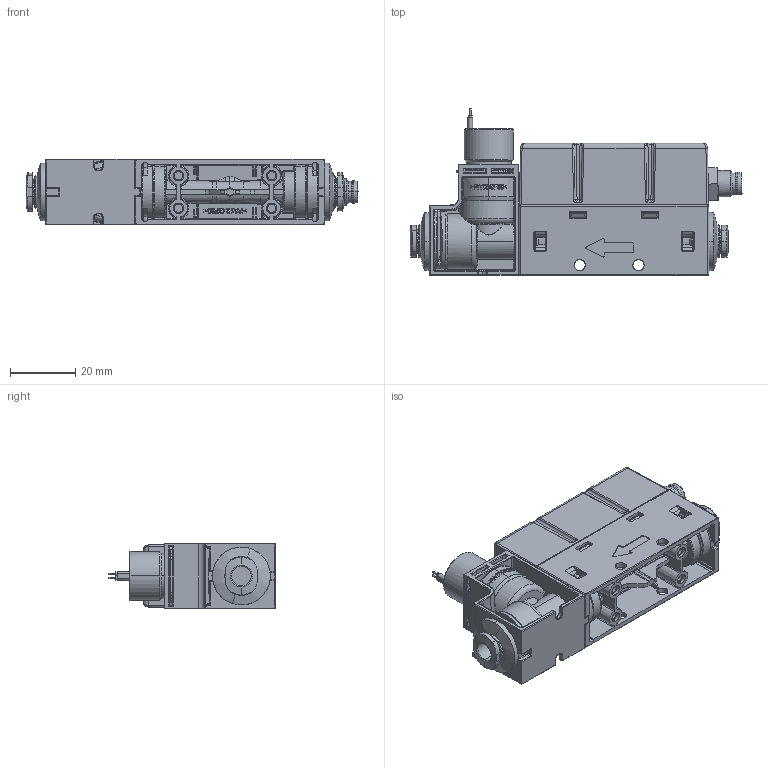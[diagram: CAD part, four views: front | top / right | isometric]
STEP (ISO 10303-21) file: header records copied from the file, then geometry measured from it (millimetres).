
FILE_DESCRIPTION (( 'STEP AP214' ), '1' );
FILE_NAME ('163285-00_Public model SFC6000.step', '2023-01-12T11:38:13', ( '' ), ( '' ), 'SwSTEP 2.0', 'SolidWorks 2021', '' );
FILE_SCHEMA (( 'AUTOMOTIVE_DESIGN' ));
Length unit declared in the file: millimetre
Products named in the file (1): 163285-00_Public model SFC6000
Bounding box: 101.63 x 50.83 x 20 mm (x, y, z)
Volume: 53826.1 mm3; surface area: 20272.7 mm2
Topology: 1 solids, 2 shells, 2247 faces, 5619 edges, 3371 vertices
Faces by surface type: bspline 885, cylinder 705, plane 528, cone 127, torus 2
Entity records: 121799 total; most frequent: CARTESIAN_POINT 51814, ORIENTED_EDGE 11122, DIRECTION 7300, EDGE_CURVE 5561, VERTEX_POINT 3369, AXIS2_PLACEMENT_3D 2591, EDGE_LOOP 2332, FACE_OUTER_BOUND 2245
